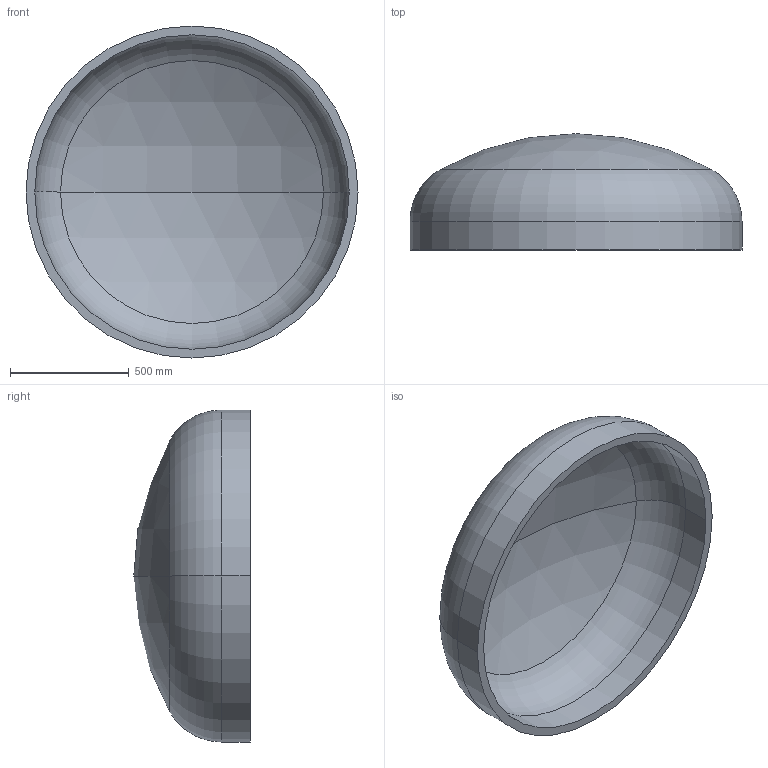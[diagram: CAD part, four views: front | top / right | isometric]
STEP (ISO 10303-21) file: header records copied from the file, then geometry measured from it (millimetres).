
FILE_DESCRIPTION (( 'STEP AP203' ), '1' );
FILE_NAME ('DIN 28013 Korbbogenform_-_Boden DIN 28013 - 1400 x 120 - I - s=37.step', '2016-07-01T10:16:28', ( '' ), ( '' ), 'SwSTEP 2.0', 'SolidWorks 2013', '' );
FILE_SCHEMA (( 'CONFIG_CONTROL_DESIGN' ));
Length unit declared in the file: millimetre
Products named in the file (1): DIN 28013 Korbbogenform_-_Boden DIN 28013 - 1400 x 120 - I - s=37
Bounding box: 1400 x 490.67 x 1400 mm (x, y, z)
Volume: 95169679.2 mm3; surface area: 5305606.4 mm2
Topology: 1 solids, 1 shells, 13 faces, 24 edges, 14 vertices
Faces by surface type: torus 4, cylinder 4, sphere 4, plane 1
Entity records: 407 total; most frequent: DIRECTION 72, CARTESIAN_POINT 52, ORIENTED_EDGE 48, AXIS2_PLACEMENT_3D 34, EDGE_CURVE 24, CIRCLE 20, EDGE_LOOP 14, VERTEX_POINT 14
